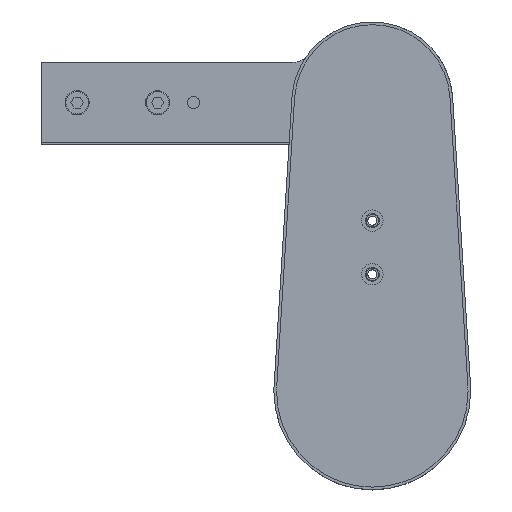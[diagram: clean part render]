
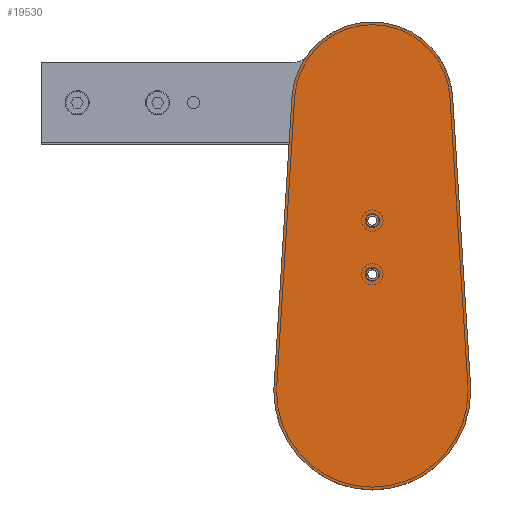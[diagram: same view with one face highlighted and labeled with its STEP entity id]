
A CAD part, top view. The second image highlights one B-rep face of the part: STEP entity #19530.
In plain terms, the highlighted planar face has unit normal (0, 0, 1) as drawn and (0, 0, -1) by its records, which use the part's own axes.
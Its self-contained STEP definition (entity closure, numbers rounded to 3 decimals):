
#599 = AXIS2_PLACEMENT_3D ( 'NONE', #66480, #8484, #80056 ) ;
#2230 = CARTESIAN_POINT ( 'NONE',  ( -3.5, 95.5, 0. ) ) ;
#2925 = AXIS2_PLACEMENT_3D ( 'NONE', #21707, #66983, #34145 ) ;
#4640 = CARTESIAN_POINT ( 'NONE',  ( -55., 0., 0. ) ) ;
#6868 = DIRECTION ( 'NONE',  ( 0., 0., 1. ) ) ;
#6877 = AXIS2_PLACEMENT_3D ( 'NONE', #22620, #55417, #74426 ) ;
#7529 = EDGE_CURVE ( 'NONE', #80192, #63794, #62165, .T. ) ;
#8484 = DIRECTION ( 'NONE',  ( 0., 0., -1. ) ) ;
#11098 = CARTESIAN_POINT ( 'NONE',  ( 54.894, 3.406, 0. ) ) ;
#13050 = AXIS2_PLACEMENT_3D ( 'NONE', #44419, #50608, #50900 ) ;
#13253 = ORIENTED_EDGE ( 'NONE', *, *, #71338, .F. ) ;
#15661 = VERTEX_POINT ( 'NONE', #18932 ) ;
#15900 = CIRCLE ( 'NONE', #46162, 3.5 ) ;
#17723 = EDGE_LOOP ( 'NONE', ( #63098, #38193 ) ) ;
#18932 = CARTESIAN_POINT ( 'NONE',  ( -3.5, 65.5, 0. ) ) ;
#19167 = EDGE_CURVE ( 'NONE', #15661, #66356, #61193, .T. ) ;
#19530 = ADVANCED_FACE ( 'NONE', ( #24746, #70327, #27792 ), #70785, .F. ) ;
#20178 = EDGE_CURVE ( 'NONE', #66356, #15661, #35686, .T. ) ;
#20742 = ORIENTED_EDGE ( 'NONE', *, *, #77690, .F. ) ;
#21707 = CARTESIAN_POINT ( 'NONE',  ( 0., 95.5, 0. ) ) ;
#22620 = CARTESIAN_POINT ( 'NONE',  ( 0., 0., 0. ) ) ;
#24348 = EDGE_CURVE ( 'NONE', #63794, #80192, #15900, .T. ) ;
#24746 = FACE_BOUND ( 'NONE', #17723, .T. ) ;
#26864 = VERTEX_POINT ( 'NONE', #80714 ) ;
#27705 = DIRECTION ( 'NONE',  ( 0., 0., 1. ) ) ;
#27792 = FACE_OUTER_BOUND ( 'NONE', #45242, .T. ) ;
#29975 = VERTEX_POINT ( 'NONE', #11098 ) ;
#30277 = CARTESIAN_POINT ( 'NONE',  ( 44.914, 164.286, 0. ) ) ;
#32322 = CARTESIAN_POINT ( 'NONE',  ( 0., 0., 0. ) ) ;
#32593 = DIRECTION ( 'NONE',  ( 0., 0., 1. ) ) ;
#33620 = LINE ( 'NONE', #43690, #34651 ) ;
#34145 = DIRECTION ( 'NONE',  ( 1., 0., 0. ) ) ;
#34651 = VECTOR ( 'NONE', #50185, 1000. ) ;
#35686 = CIRCLE ( 'NONE', #44525, 3.5 ) ;
#36094 = CIRCLE ( 'NONE', #13050, 45. ) ;
#38193 = ORIENTED_EDGE ( 'NONE', *, *, #7529, .F. ) ;
#39402 = ORIENTED_EDGE ( 'NONE', *, *, #42675, .F. ) ;
#40091 = CARTESIAN_POINT ( 'NONE',  ( -54.894, 3.406, 0. ) ) ;
#40210 = AXIS2_PLACEMENT_3D ( 'NONE', #32322, #32593, #77623 ) ;
#40379 = DIRECTION ( 'NONE',  ( 0., 0., -1. ) ) ;
#42603 = EDGE_CURVE ( 'NONE', #65265, #59098, #74069, .T. ) ;
#42675 = EDGE_CURVE ( 'NONE', #29975, #26864, #45731, .T. ) ;
#42938 = ORIENTED_EDGE ( 'NONE', *, *, #57441, .F. ) ;
#43690 = CARTESIAN_POINT ( 'NONE',  ( -44.914, 164.286, 0. ) ) ;
#44419 = CARTESIAN_POINT ( 'NONE',  ( 0., 161.5, 0. ) ) ;
#44525 = AXIS2_PLACEMENT_3D ( 'NONE', #52821, #40379, #46623 ) ;
#44547 = CARTESIAN_POINT ( 'NONE',  ( 0., 95.5, 0. ) ) ;
#44834 = DIRECTION ( 'NONE',  ( 1., 0., 0. ) ) ;
#45242 = EDGE_LOOP ( 'NONE', ( #42938, #39402, #20742, #64325, #76724, #13253 ) ) ;
#45440 = EDGE_CURVE ( 'NONE', #59098, #46380, #58141, .T. ) ;
#45731 = LINE ( 'NONE', #30277, #56817 ) ;
#46162 = AXIS2_PLACEMENT_3D ( 'NONE', #44547, #58072, #44834 ) ;
#46380 = VERTEX_POINT ( 'NONE', #60567 ) ;
#46623 = DIRECTION ( 'NONE',  ( 1., 0., 0. ) ) ;
#48056 = CARTESIAN_POINT ( 'NONE',  ( 0., 0., 0. ) ) ;
#50185 = DIRECTION ( 'NONE',  ( -0.062, -0.998, 0. ) ) ;
#50608 = DIRECTION ( 'NONE',  ( 0., 0., 1. ) ) ;
#50900 = DIRECTION ( 'NONE',  ( 1., 0., 0. ) ) ;
#52118 = ORIENTED_EDGE ( 'NONE', *, *, #19167, .F. ) ;
#52821 = CARTESIAN_POINT ( 'NONE',  ( 0., 65.5, 0. ) ) ;
#54030 = CARTESIAN_POINT ( 'NONE',  ( 3.5, 65.5, 0. ) ) ;
#54522 = VERTEX_POINT ( 'NONE', #77933 ) ;
#55417 = DIRECTION ( 'NONE',  ( 0., 0., 1. ) ) ;
#56817 = VECTOR ( 'NONE', #75550, 1000. ) ;
#57441 = EDGE_CURVE ( 'NONE', #26864, #54522, #36094, .T. ) ;
#57733 = DIRECTION ( 'NONE',  ( 1., 0., 0. ) ) ;
#58072 = DIRECTION ( 'NONE',  ( 0., 0., -1. ) ) ;
#58141 = CIRCLE ( 'NONE', #63076, 55. ) ;
#59098 = VERTEX_POINT ( 'NONE', #4640 ) ;
#60567 = CARTESIAN_POINT ( 'NONE',  ( 55., 0., 0. ) ) ;
#61193 = CIRCLE ( 'NONE', #599, 3.5 ) ;
#62165 = CIRCLE ( 'NONE', #2925, 3.5 ) ;
#62788 = CIRCLE ( 'NONE', #40210, 55. ) ;
#63076 = AXIS2_PLACEMENT_3D ( 'NONE', #48056, #27705, #79492 ) ;
#63098 = ORIENTED_EDGE ( 'NONE', *, *, #24348, .F. ) ;
#63794 = VERTEX_POINT ( 'NONE', #77920 ) ;
#63958 = AXIS2_PLACEMENT_3D ( 'NONE', #71339, #6868, #57733 ) ;
#64325 = ORIENTED_EDGE ( 'NONE', *, *, #45440, .F. ) ;
#65265 = VERTEX_POINT ( 'NONE', #40091 ) ;
#66356 = VERTEX_POINT ( 'NONE', #54030 ) ;
#66480 = CARTESIAN_POINT ( 'NONE',  ( 0., 65.5, 0. ) ) ;
#66983 = DIRECTION ( 'NONE',  ( 0., 0., -1. ) ) ;
#67822 = EDGE_LOOP ( 'NONE', ( #76986, #52118 ) ) ;
#70327 = FACE_BOUND ( 'NONE', #67822, .T. ) ;
#70785 = PLANE ( 'NONE',  #63958 ) ;
#71338 = EDGE_CURVE ( 'NONE', #54522, #65265, #33620, .T. ) ;
#71339 = CARTESIAN_POINT ( 'NONE',  ( 0., 161.5, 0. ) ) ;
#74069 = CIRCLE ( 'NONE', #6877, 55. ) ;
#74426 = DIRECTION ( 'NONE',  ( 1., 0., 0. ) ) ;
#75550 = DIRECTION ( 'NONE',  ( -0.062, 0.998, 0. ) ) ;
#76724 = ORIENTED_EDGE ( 'NONE', *, *, #42603, .F. ) ;
#76986 = ORIENTED_EDGE ( 'NONE', *, *, #20178, .F. ) ;
#77623 = DIRECTION ( 'NONE',  ( 1., 0., 0. ) ) ;
#77690 = EDGE_CURVE ( 'NONE', #46380, #29975, #62788, .T. ) ;
#77920 = CARTESIAN_POINT ( 'NONE',  ( 3.5, 95.5, 0. ) ) ;
#77933 = CARTESIAN_POINT ( 'NONE',  ( -44.914, 164.286, 0. ) ) ;
#79492 = DIRECTION ( 'NONE',  ( 1., 0., 0. ) ) ;
#80056 = DIRECTION ( 'NONE',  ( 1., 0., 0. ) ) ;
#80192 = VERTEX_POINT ( 'NONE', #2230 ) ;
#80714 = CARTESIAN_POINT ( 'NONE',  ( 44.914, 164.286, 0. ) ) ;
